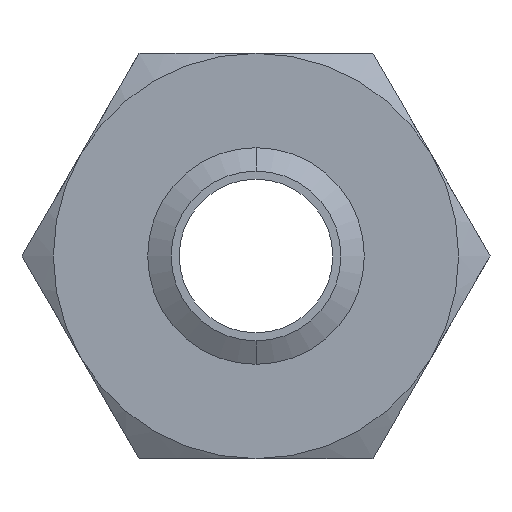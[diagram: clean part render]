
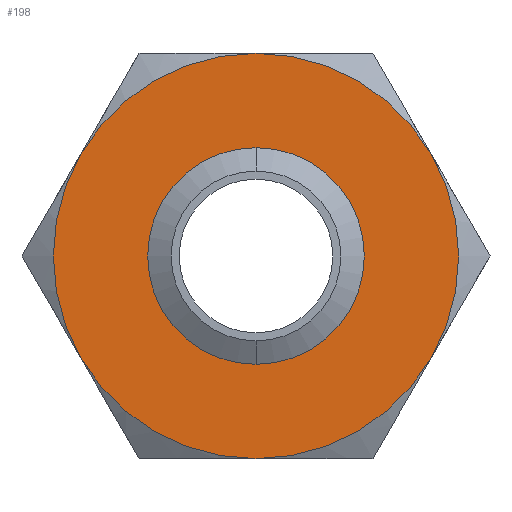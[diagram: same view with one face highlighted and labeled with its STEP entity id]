
A CAD part, front view. The second image highlights one B-rep face of the part: STEP entity #198.
In plain terms, the highlighted planar face has unit normal (0, -1, 0).
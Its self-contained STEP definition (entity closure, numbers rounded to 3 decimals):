
#177 = VERTEX_POINT ( 'NONE', #904 ) ;
#181 = ORIENTED_EDGE ( 'NONE', *, *, #192, .F. ) ;
#183 = EDGE_LOOP ( 'NONE', ( #181, #200, #194, #2033, #216, #218 ) ) ;
#190 = VERTEX_POINT ( 'NONE', #958 ) ;
#192 = EDGE_CURVE ( 'NONE', #190, #177, #956, .T. ) ;
#194 = ORIENTED_EDGE ( 'NONE', *, *, #213, .F. ) ;
#197 = VERTEX_POINT ( 'NONE', #941 ) ;
#198 = ADVANCED_FACE ( 'NONE', ( #940, #942 ), #939, .F. ) ;
#199 = EDGE_LOOP ( 'NONE', ( #2054, #2052 ) ) ;
#200 = ORIENTED_EDGE ( 'NONE', *, *, #203, .F. ) ;
#203 = EDGE_CURVE ( 'NONE', #197, #190, #995, .T. ) ;
#205 = EDGE_CURVE ( 'NONE', #177, #2025, #989, .T. ) ;
#213 = EDGE_CURVE ( 'NONE', #2023, #197, #1029, .T. ) ;
#216 = ORIENTED_EDGE ( 'NONE', *, *, #2024, .F. ) ;
#218 = ORIENTED_EDGE ( 'NONE', *, *, #205, .F. ) ;
#343 = DIRECTION ( 'NONE',  ( 0., 0., 1. ) ) ;
#344 = DIRECTION ( 'NONE',  ( 0., 1., 0. ) ) ;
#345 = CARTESIAN_POINT ( 'NONE',  ( 27.424, 0., -47.5 ) ) ;
#346 = AXIS2_PLACEMENT_3D ( 'NONE', #345, #344, #343 ) ;
#449 = EDGE_CURVE ( 'NONE', #450, #451, #1401, .T. ) ;
#450 = VERTEX_POINT ( 'NONE', #1396 ) ;
#451 = VERTEX_POINT ( 'NONE', #1395 ) ;
#904 = CARTESIAN_POINT ( 'NONE',  ( 41.136, 0., 23.75 ) ) ;
#939 = PLANE ( 'NONE',  #346 ) ;
#940 = FACE_OUTER_BOUND ( 'NONE', #183, .T. ) ;
#941 = CARTESIAN_POINT ( 'NONE',  ( -41.136, 0., 23.75 ) ) ;
#942 = FACE_BOUND ( 'NONE', #199, .T. ) ;
#952 = DIRECTION ( 'NONE',  ( 0., 0., 1. ) ) ;
#953 = DIRECTION ( 'NONE',  ( 0., 1., 0. ) ) ;
#954 = CARTESIAN_POINT ( 'NONE',  ( 0., 0., 0. ) ) ;
#955 = AXIS2_PLACEMENT_3D ( 'NONE', #954, #953, #952 ) ;
#956 = CIRCLE ( 'NONE', #955, 47.5 ) ;
#958 = CARTESIAN_POINT ( 'NONE',  ( 0., 0., 47.5 ) ) ;
#985 = DIRECTION ( 'NONE',  ( 0., 0., 1. ) ) ;
#986 = DIRECTION ( 'NONE',  ( 0., 1., 0. ) ) ;
#987 = CARTESIAN_POINT ( 'NONE',  ( 0., 0., 0. ) ) ;
#988 = AXIS2_PLACEMENT_3D ( 'NONE', #987, #986, #985 ) ;
#989 = CIRCLE ( 'NONE', #988, 47.5 ) ;
#991 = DIRECTION ( 'NONE',  ( 0., 0., 1. ) ) ;
#992 = DIRECTION ( 'NONE',  ( 0., 1., 0. ) ) ;
#993 = CARTESIAN_POINT ( 'NONE',  ( 0., 0., 0. ) ) ;
#994 = AXIS2_PLACEMENT_3D ( 'NONE', #993, #992, #991 ) ;
#995 = CIRCLE ( 'NONE', #994, 47.5 ) ;
#1025 = DIRECTION ( 'NONE',  ( 0., 0., 1. ) ) ;
#1026 = DIRECTION ( 'NONE',  ( 0., 1., 0. ) ) ;
#1027 = CARTESIAN_POINT ( 'NONE',  ( 0., 0., 0. ) ) ;
#1028 = AXIS2_PLACEMENT_3D ( 'NONE', #1027, #1026, #1025 ) ;
#1029 = CIRCLE ( 'NONE', #1028, 47.5 ) ;
#1395 = CARTESIAN_POINT ( 'NONE',  ( 0., 0., 19.901 ) ) ;
#1396 = CARTESIAN_POINT ( 'NONE',  ( 0., 0., -19.901 ) ) ;
#1397 = DIRECTION ( 'NONE',  ( 0., 0., -1. ) ) ;
#1398 = DIRECTION ( 'NONE',  ( 0., -1., 0. ) ) ;
#1399 = CARTESIAN_POINT ( 'NONE',  ( 0., 0., 0. ) ) ;
#1400 = AXIS2_PLACEMENT_3D ( 'NONE', #1399, #1398, #1397 ) ;
#1401 = CIRCLE ( 'NONE', #1400, 19.901 ) ;
#1686 = DIRECTION ( 'NONE',  ( 0., 0., 1. ) ) ;
#1687 = DIRECTION ( 'NONE',  ( 0., 1., 0. ) ) ;
#1688 = CARTESIAN_POINT ( 'NONE',  ( 0., 0., 0. ) ) ;
#1689 = AXIS2_PLACEMENT_3D ( 'NONE', #1688, #1687, #1686 ) ;
#1690 = CIRCLE ( 'NONE', #1689, 47.5 ) ;
#1691 = CARTESIAN_POINT ( 'NONE',  ( 0., 0., -47.5 ) ) ;
#1692 = DIRECTION ( 'NONE',  ( 0., 0., 1. ) ) ;
#1693 = DIRECTION ( 'NONE',  ( 0., 1., 0. ) ) ;
#1694 = CARTESIAN_POINT ( 'NONE',  ( 0., 0., 0. ) ) ;
#1695 = AXIS2_PLACEMENT_3D ( 'NONE', #1694, #1693, #1692 ) ;
#1696 = CIRCLE ( 'NONE', #1695, 47.5 ) ;
#1697 = CARTESIAN_POINT ( 'NONE',  ( 41.136, 0., -23.75 ) ) ;
#1701 = CARTESIAN_POINT ( 'NONE',  ( -41.136, 0., -23.75 ) ) ;
#1756 = DIRECTION ( 'NONE',  ( 0., 0., -1. ) ) ;
#1757 = DIRECTION ( 'NONE',  ( 0., -1., 0. ) ) ;
#1758 = CARTESIAN_POINT ( 'NONE',  ( 0., 0., 0. ) ) ;
#1759 = AXIS2_PLACEMENT_3D ( 'NONE', #1758, #1757, #1756 ) ;
#1760 = CIRCLE ( 'NONE', #1759, 19.901 ) ;
#2023 = VERTEX_POINT ( 'NONE', #1701 ) ;
#2024 = EDGE_CURVE ( 'NONE', #2025, #2029, #1696, .T. ) ;
#2025 = VERTEX_POINT ( 'NONE', #1697 ) ;
#2029 = VERTEX_POINT ( 'NONE', #1691 ) ;
#2030 = EDGE_CURVE ( 'NONE', #2029, #2023, #1690, .T. ) ;
#2033 = ORIENTED_EDGE ( 'NONE', *, *, #2030, .F. ) ;
#2052 = ORIENTED_EDGE ( 'NONE', *, *, #2055, .F. ) ;
#2054 = ORIENTED_EDGE ( 'NONE', *, *, #449, .F. ) ;
#2055 = EDGE_CURVE ( 'NONE', #451, #450, #1760, .T. ) ;
